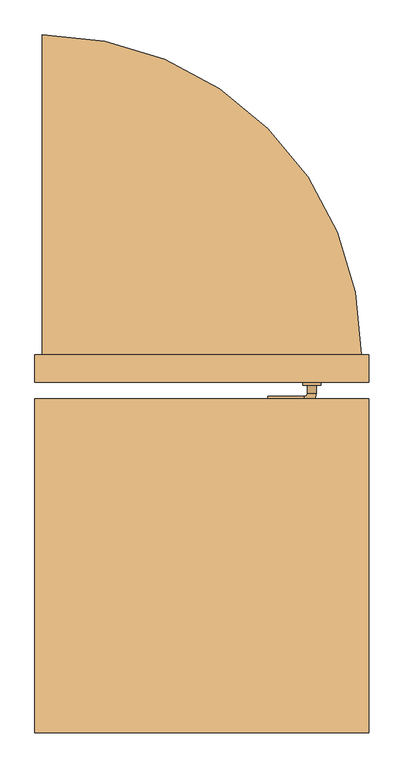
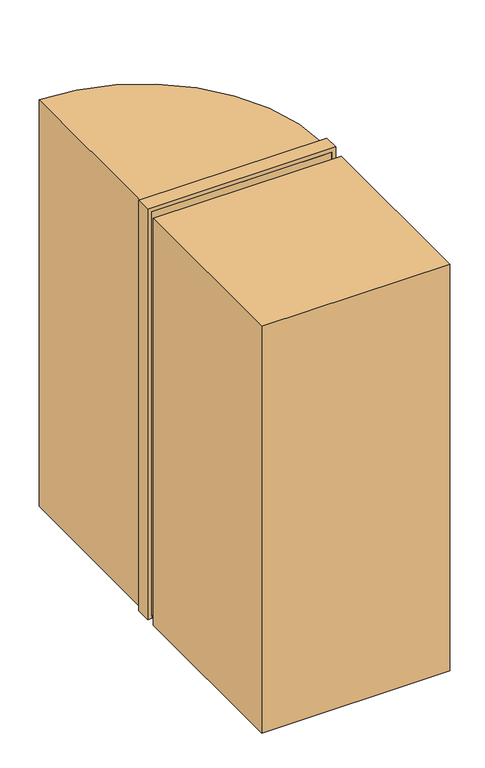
"""IFC4 building model written with IfcOpenShell, lengths in millimetres: door geometry, Дверь_Противопожарная_Металлическая_Однопольная_Глухая : 910 х 2100(h)_Пр_EI30."""

import ifcopenshell
import ifcopenshell.guid

model = None  # the IFC model being written
_history = None  # IfcOwnerHistory: only IFC2X3 demands one
_inside = {}  # id of a spatial element -> (the spatial element, [elements in it])
_under = {}  # id of a project, library or spatial element -> (it, [spatial elements below it])
_declared = {}  # id of a project -> (the project, [libraries it declares])
_typed = {}  # id of a type object -> (the type object, [elements of that type])
_made_of = {}  # id of a material, layer set ... -> (it, [elements and type objects made of it])


def new_model(schema):
    """Start an empty IFC model of exactly this schema.

    Asked for "IFC4X3", IfcOpenShell would pick the latest addendum, in which some entities
    have other attributes; the version numbers below select the first issue.
    IFC2X3 requires an IfcOwnerHistory on every rooted entity: one is made here for all.
    """
    global model, _history
    if schema == "IFC4X3":
        model = ifcopenshell.file(schema_version=(4, 3, 0, 0))
    else:
        model = ifcopenshell.file(schema=schema)
    _inside.clear()
    _under.clear()
    _declared.clear()
    _typed.clear()
    _made_of.clear()
    _history = None
    if model.schema == "IFC2X3":
        org = make("IfcOrganization", Name="unknown")
        user = make(
            "IfcPersonAndOrganization",
            ThePerson=make("IfcPerson", FamilyName="unknown"),
            TheOrganization=org,
        )
        app = make(
            "IfcApplication",
            ApplicationDeveloper=org,
            Version="unknown",
            ApplicationFullName="unknown",
            ApplicationIdentifier="unknown",
        )
        _history = make(
            "IfcOwnerHistory",
            OwningUser=user,
            OwningApplication=app,
            ChangeAction="ADDED",
            CreationDate=0,
        )
    return model


def make(cls, **values):
    """One entity of the class cls with the attributes given. An attribute that is None is left unset."""
    return model.create_entity(
        cls, **{name: value for name, value in values.items() if value is not None}
    )


def rooted(cls, **values):
    """An entity with a GlobalId (a new one), such as an element, a storey or a relation."""
    return make(cls, GlobalId=ifcopenshell.guid.new(), OwnerHistory=_history, **values)


def si_unit(unit_type, name, prefix=None):
    """IfcSIUnit, for example si_unit("LENGTHUNIT", "METRE", prefix="MILLI")."""
    return make("IfcSIUnit", UnitType=unit_type, Prefix=prefix, Name=name)


def assignment(units):
    """IfcUnitAssignment: the units of a project."""
    return None if units is None else make("IfcUnitAssignment", Units=units)


def point(xyz):
    """IfcCartesianPoint."""
    return None if xyz is None else make("IfcCartesianPoint", Coordinates=xyz)


def direction(xyz):
    """IfcDirection."""
    return None if xyz is None else make("IfcDirection", DirectionRatios=xyz)


def frame(location, z_axis=None, x_axis=None):
    """IfcAxis2Placement3D, a coordinate frame: its origin and axes. An axis left out is left unset."""
    return make(
        "IfcAxis2Placement3D",
        Location=point(location),
        Axis=direction(z_axis),
        RefDirection=direction(x_axis),
    )


def frame_2d(location, x_axis=None):
    """IfcAxis2Placement2D, a coordinate frame in the plane: its origin and x axis."""
    return make(
        "IfcAxis2Placement2D", Location=point(location), RefDirection=direction(x_axis)
    )


def origin():
    """The frame at (0, 0, 0) with its axes left unset."""
    return frame((0.0, 0.0, 0.0))


def origin_with_axes():
    """The frame at (0, 0, 0) with the z axis (0, 0, 1) and the x axis (1, 0, 0) written out."""
    return frame((0.0, 0.0, 0.0), z_axis=(0.0, 0.0, 1.0), x_axis=(1.0, 0.0, 0.0))


def place(relative_to, where):
    """IfcLocalPlacement: puts the frame where relative to a parent placement (None: the world)."""
    return make(
        "IfcLocalPlacement", PlacementRelTo=relative_to, RelativePlacement=where
    )


def context(
    kind, dimensions, precision=None, world=None, true_north=None, identifier=None
):
    """IfcGeometricRepresentationContext, for example the 3D "Model" context."""
    return make(
        "IfcGeometricRepresentationContext",
        ContextIdentifier=identifier,
        ContextType=kind,
        CoordinateSpaceDimension=dimensions,
        Precision=precision,
        WorldCoordinateSystem=world,
        TrueNorth=true_north,
    )


def project(units=None, contexts=None):
    """IfcProject with its units and contexts."""
    return rooted(
        "IfcProject",
        Name="project",
        RepresentationContexts=contexts,
        UnitsInContext=assignment(units),
    )


def spatial(cls, under=None, at=None, **own):
    """A site, building, storey or space (cls), placed at a placement, below another one or the project."""
    s = rooted(cls, ObjectPlacement=at, **own)
    if under is not None:
        _under.setdefault(under.id(), (under, []))[1].append(s)
    return s


def polyline(points):
    """IfcPolyline through the points."""
    return make("IfcPolyline", Points=[point(p) for p in points])


def circle_curve(where, radius):
    """IfcCircle in the frame where."""
    return make("IfcCircle", Position=where, Radius=radius)


def ellipse_curve(where, semi_axis1, semi_axis2):
    """IfcEllipse in the frame where."""
    return make(
        "IfcEllipse", Position=where, SemiAxis1=semi_axis1, SemiAxis2=semi_axis2
    )


def trimmed(basis, trim1, trim2, sense, master):
    """IfcTrimmedCurve: the piece of a basis curve between two trims."""
    return make(
        "IfcTrimmedCurve",
        BasisCurve=basis,
        Trim1=trim1,
        Trim2=trim2,
        SenseAgreement=sense,
        MasterRepresentation=master,
    )


def segment(curve, same_sense, transition):
    """IfcCompositeCurveSegment."""
    return make(
        "IfcCompositeCurveSegment",
        Transition=transition,
        SameSense=same_sense,
        ParentCurve=curve,
    )


def composite_curve(segments, self_intersect=None):
    """IfcCompositeCurve: segments joined end to end."""
    return make("IfcCompositeCurve", Segments=segments, SelfIntersect=self_intersect)


def outline(outer, holes=None, kind="AREA"):
    """IfcArbitraryClosedProfileDef: a profile drawn as a closed curve; with holes, ...WithVoids."""
    if holes is None:
        return make("IfcArbitraryClosedProfileDef", ProfileType=kind, OuterCurve=outer)
    return make(
        "IfcArbitraryProfileDefWithVoids",
        ProfileType=kind,
        OuterCurve=outer,
        InnerCurves=holes,
    )


def extrude(swept, where, along, depth):
    """IfcExtrudedAreaSolid: the profile swept, set in the frame where, extruded along a direction by depth."""
    return make(
        "IfcExtrudedAreaSolid",
        SweptArea=swept,
        Position=where,
        ExtrudedDirection=direction(along),
        Depth=depth,
    )


def shape(context_of_items, identifier, shape_type, items):
    """IfcShapeRepresentation: the items that make up one representation, for example the "Body"."""
    return make(
        "IfcShapeRepresentation",
        ContextOfItems=context_of_items,
        RepresentationIdentifier=identifier,
        RepresentationType=shape_type,
        Items=items,
    )


def source(mapping_origin, context_of_items, identifier, shape_type, items):
    """IfcRepresentationMap: a shape defined once, which mapped items show again and again."""
    return make(
        "IfcRepresentationMap",
        MappingOrigin=mapping_origin,
        MappedRepresentation=shape(context_of_items, identifier, shape_type, items),
    )


def transform(
    local_origin,
    x_axis=None,
    y_axis=None,
    z_axis=None,
    scale=None,
    scale2=None,
    scale3=None,
    uniform=True,
):
    """IfcCartesianTransformationOperator3D, or its non-uniform kind. x_axis, y_axis, z_axis: its Axis1, 2, 3."""
    if uniform:
        return make(
            "IfcCartesianTransformationOperator3D",
            Axis1=direction(x_axis),
            Axis2=direction(y_axis),
            LocalOrigin=point(local_origin),
            Scale=scale,
            Axis3=direction(z_axis),
        )
    return make(
        "IfcCartesianTransformationOperator3DnonUniform",
        Axis1=direction(x_axis),
        Axis2=direction(y_axis),
        LocalOrigin=point(local_origin),
        Scale=scale,
        Axis3=direction(z_axis),
        Scale2=scale2,
        Scale3=scale3,
    )


def mapped(mapping_source, mapping_target):
    """IfcMappedItem: shows the shape of a source again, moved by a transform."""
    return make(
        "IfcMappedItem", MappingSource=mapping_source, MappingTarget=mapping_target
    )


def made_of(thing, what):
    """Note that an element or type object is made of a material, layer set ...; save() writes the relation."""
    if what is not None:
        _made_of.setdefault(what.id(), (what, []))[1].append(thing)
    return thing


def element(
    cls,
    number,
    at=None,
    inside=None,
    cuts=None,
    type_object=None,
    material=None,
    context=None,
    identifier="Body",
    shape_type=None,
    held_by="IfcProductDefinitionShape",
    body=None,
    shapes=None,
    **own,
):
    """One element of the class cls, such as IfcWall. Its Tag is "e" and its number.

    at: its placement. inside: the storey or other place that contains it. cuts: it is an
    opening in that element (IfcRelVoidsElement). A single representation is given by context,
    identifier, shape_type and body (its items); several are given by shapes. held_by: the class
    of the entity that holds the representations. save() writes the other relations.
    """
    e = rooted(cls, Tag="e%d" % number, ObjectPlacement=at, **own)
    if body is not None:
        shapes = [shape(context, identifier, shape_type, body)]
    if shapes is not None:
        e.Representation = make(held_by, Representations=shapes)
    if inside is not None:
        _inside.setdefault(inside.id(), (inside, []))[1].append(e)
    if cuts is not None:
        rooted(
            "IfcRelVoidsElement", RelatingBuildingElement=cuts, RelatedOpeningElement=e
        )
    if type_object is not None:
        _typed.setdefault(type_object.id(), (type_object, []))[1].append(e)
    return made_of(e, material)


def aggregate(whole, parts):
    """IfcRelAggregates: a whole, such as a stair, and the parts it consists of."""
    return rooted("IfcRelAggregates", RelatingObject=whole, RelatedObjects=parts)


def save(model, path):
    """Write the relations noted so far, then the file.

    IfcRelAggregates (storeys below a building ...), IfcRelContainedInSpatialStructure (elements
    in a storey), IfcRelDefinesByType, IfcRelAssociatesMaterial and IfcRelDeclares: one each for
    every whole, place, type object, material and project.
    """
    for whole, parts in _under.values():
        aggregate(whole, parts)
    for where, things in _inside.values():
        rooted(
            "IfcRelContainedInSpatialStructure",
            RelatedElements=things,
            RelatingStructure=where,
        )
    for kind, things in _typed.values():
        rooted("IfcRelDefinesByType", RelatedObjects=things, RelatingType=kind)
    for what, things in _made_of.values():
        rooted("IfcRelAssociatesMaterial", RelatedObjects=things, RelatingMaterial=what)
    for by, libraries in _declared.values():
        rooted("IfcRelDeclares", RelatingContext=by, RelatedDefinitions=libraries)
    model.write(path)


def plane_surface(at):
    """IfcPlane: the flat surface through the origin of the frame at, square to its z axis."""
    return make("IfcPlane", Position=at)


def cylinder_surface(at, radius):
    """IfcCylindricalSurface: all points at the distance radius from the z axis of the frame at."""
    return make("IfcCylindricalSurface", Position=at, Radius=radius)


def revolved_surface(curve, axis_point, axis_direction):
    """IfcSurfaceOfRevolution: the curve turned about the line through axis_point along axis_direction."""
    return make(
        "IfcSurfaceOfRevolution",
        SweptCurve=make("IfcArbitraryOpenProfileDef", ProfileType="CURVE", Curve=curve),
        AxisPosition=make("IfcAxis1Placement", Location=point(axis_point), Axis=direction(axis_direction)),
    )


def advanced_brep(points, edges, surfaces, faces):
    """IfcAdvancedBrep: a solid bounded by faces that lie on surfaces and meet in shared edges.

    An edge is (start, end): straight between two places in points (the first is 0);
    or (start, end, curve); or (start, end, curve, False) where it runs against its curve.
    A face is (place in surfaces, loops), or (place, loops, False) where it looks against
    its surface's normal. A loop lists edges by number (the first is 1), with a minus sign
    where the edge is run from its end to its start. The first loop is the outer one.
    """
    corners = [point(p) for p in points]
    vertices = [make("IfcVertexPoint", VertexGeometry=c) for c in corners]
    made = []
    for start, end, *more in edges:
        made.append(
            make(
                "IfcEdgeCurve",
                EdgeStart=vertices[start],
                EdgeEnd=vertices[end],
                EdgeGeometry=more[0] if more else make("IfcPolyline", Points=[corners[start], corners[end]]),
                SameSense=more[1] if len(more) > 1 else True,
            )
        )
    hull = []
    for where, loops, *sense in faces:
        bounds = []
        for j, loop in enumerate(loops):
            ring = [make("IfcOrientedEdge", EdgeElement=made[abs(k) - 1], Orientation=k > 0) for k in loop]
            bounds.append(
                make(
                    "IfcFaceOuterBound" if j == 0 else "IfcFaceBound",
                    Bound=make("IfcEdgeLoop", EdgeList=ring),
                    Orientation=True,
                )
            )
        hull.append(make("IfcAdvancedFace", Bounds=bounds, FaceSurface=surfaces[where], SameSense=sense[0] if sense else True))
    return make("IfcAdvancedBrep", Outer=make("IfcClosedShell", CfsFaces=hull))


def door_dd1247db(model_context):
    return source(origin(), model_context, "Body", "SolidModel", [
        extrude(outline(composite_curve([segment(trimmed(circle_curve(frame_2d((-435.0, 60.0)), 870.0), [point((-435.0, 930.0))], [point((435.0, 60.0))], False, "CARTESIAN"), True, "CONTINUOUS"), segment(polyline([(435.0, 60.0), (-435.0, 60.0), (-435.0, 930.0)]), True, "CONTINUOUS")], self_intersect=False)), origin_with_axes(), (0.0, 0.0, 1.0), 2080.0),
        extrude(outline(polyline([(-455.0, -970.0), (-455.0, -60.0), (455.0, -60.0), (455.0, -970.0), (-455.0, -970.0)])), origin_with_axes(), (0.0, 0.0, 1.0), 2080.0),
        advanced_brep(
        [(180.0, 122.0, 1000.0), (180.0, 98.0, 1000.0), (280.0, 98.0, 1000.0), (280.0, 122.0, 1000.0), (288.0, 90.0, 1000.0), (312.0, 90.0, 1000.0), (312.0, -45.0, 1000.0), (312.0, -23.0, 1000.0), (288.0, -23.0, 1000.0), (288.0, -45.0, 1000.0), (288.0, 68.0, 1000.0), (312.0, 68.0, 1000.0), (280.0, -53.0, 1000.0), (280.0, -77.0, 1000.0), (180.0, -77.0, 1000.0), (180.0, -53.0, 1000.0), (325.0, 68.0, 1000.0), (275.0, 68.0, 1000.0), (325.0, -23.0, 1000.0), (275.0, -23.0, 1000.0)],
        [
            (0, 1, circle_curve(frame((180.0, 110.0, 1000.0), z_axis=(-1.0, 0.0, 0.0), x_axis=(0.0, -1.0, 0.0)), 12.0)),
            (1, 0, circle_curve(frame((180.0, 110.0, 1000.0), z_axis=(-1.0, 0.0, 0.0), x_axis=(0.0, -1.0, 0.0)), 12.0)),
            (1, 2),
            (2, 3, circle_curve(frame((280.0, 110.0, 1000.0), z_axis=(-1.0, 0.0, 0.0), x_axis=(0.0, -1.0, 0.0)), 12.0)),
            (3, 0),
            (3, 2, circle_curve(frame((280.0, 110.0, 1000.0), z_axis=(-1.0, 0.0, 0.0), x_axis=(0.0, -1.0, 0.0)), 12.0)),
            (2, 4, circle_curve(frame((280.0, 90.0, 1000.0), z_axis=(0.0, 0.0, -1.0), x_axis=(0.0, 1.0, 0.0)), 8.0)),
            (4, 5, circle_curve(frame((300.0, 90.0, 1000.0), z_axis=(0.0, 1.0, 0.0), x_axis=(-1.0, 0.0, 0.0)), 12.0)),
            (5, 3, circle_curve(frame((280.0, 90.0, 1000.0), z_axis=(0.0, 0.0, 1.0), x_axis=(0.0, 1.0, 0.0)), 32.0)),
            (5, 4, circle_curve(frame((300.0, 90.0, 1000.0), z_axis=(0.0, 1.0, 0.0), x_axis=(-1.0, 0.0, 0.0)), 12.0)),
            (6, 7),
            (7, 8, circle_curve(frame((300.0, -23.0, 1000.0), z_axis=(0.0, -1.0, 0.0), x_axis=(-1.0, 0.0, 0.0)), 12.0)),
            (8, 9),
            (9, 6, circle_curve(frame((300.0, -45.0, 1000.0), z_axis=(0.0, 1.0, 0.0), x_axis=(-1.0, 0.0, 0.0)), 12.0)),
            (4, 10),
            (10, 11, circle_curve(frame((300.0, 68.0, 1000.0), z_axis=(0.0, 1.0, 0.0), x_axis=(-1.0, 0.0, 0.0)), 12.0)),
            (11, 5),
            (11, 10, circle_curve(frame((300.0, 68.0, 1000.0), z_axis=(0.0, 1.0, 0.0), x_axis=(-1.0, 0.0, 0.0)), 12.0)),
            (8, 7, circle_curve(frame((300.0, -23.0, 1000.0), z_axis=(0.0, -1.0, 0.0), x_axis=(-1.0, 0.0, 0.0)), 12.0)),
            (6, 9, circle_curve(frame((300.0, -45.0, 1000.0), z_axis=(0.0, 1.0, 0.0), x_axis=(-1.0, 0.0, 0.0)), 12.0)),
            (9, 12, circle_curve(frame((280.0, -45.0, 1000.0), z_axis=(0.0, 0.0, -1.0), x_axis=(1.0, 0.0, 0.0)), 8.0)),
            (12, 13, circle_curve(frame((280.0, -65.0, 1000.0), z_axis=(1.0, 0.0, 0.0), x_axis=(0.0, 1.0, 0.0)), 12.0)),
            (13, 6, circle_curve(frame((280.0, -45.0, 1000.0), z_axis=(0.0, 0.0, 1.0), x_axis=(1.0, 0.0, 0.0)), 32.0)),
            (13, 12, circle_curve(frame((280.0, -65.0, 1000.0), z_axis=(1.0, 0.0, 0.0), x_axis=(0.0, 1.0, 0.0)), 12.0)),
            (14, 15, circle_curve(frame((180.0, -65.0, 1000.0), z_axis=(-1.0, 0.0, 0.0), x_axis=(0.0, 1.0, 0.0)), 12.0)),
            (15, 14, circle_curve(frame((180.0, -65.0, 1000.0), z_axis=(-1.0, 0.0, 0.0), x_axis=(0.0, 1.0, 0.0)), 12.0)),
            (12, 15),
            (14, 13),
            (16, 17, circle_curve(frame((300.0, 68.0, 1000.0), z_axis=(0.0, 1.0, 0.0), x_axis=(-1.0, 0.0, 0.0)), 25.0)),
            (17, 16, circle_curve(frame((300.0, 68.0, 1000.0), z_axis=(0.0, 1.0, 0.0), x_axis=(-1.0, 0.0, 0.0)), 25.0)),
            (18, 19, circle_curve(frame((300.0, -23.0, 1000.0), z_axis=(0.0, -1.0, 0.0), x_axis=(-1.0, 0.0, 0.0)), 25.0)),
            (19, 18, circle_curve(frame((300.0, -23.0, 1000.0), z_axis=(0.0, -1.0, 0.0), x_axis=(-1.0, 0.0, 0.0)), 25.0)),
            (16, 18),
            (19, 17),
        ],
        [
            plane_surface(frame((180.0, 110.0, 1000.0), z_axis=(-1.0, 0.0, 0.0), x_axis=(0.0, 0.0, 1.0))),
            cylinder_surface(frame((180.0, 110.0, 1000.0), z_axis=(-1.0, 0.0, 0.0), x_axis=(0.0, -1.0, 0.0)), 12.0),
            revolved_surface(trimmed(ellipse_curve(frame((280.0, 110.0, 1000.0), z_axis=(1.0, 0.0, 0.0), x_axis=(0.0, -1.0, 0.0)), 12.0, 12.0), [point((280.0, 122.0, 1000.0))], [point((280.0, 98.0, 1000.0))], True, "CARTESIAN"), (280.0, 90.0, 1000.0), (0.0, 0.0, 1.0)),
            revolved_surface(trimmed(ellipse_curve(frame((280.0, 110.0, 1000.0), z_axis=(1.0, 0.0, 0.0), x_axis=(0.0, -1.0, 0.0)), 12.0, 12.0), [point((280.0, 98.0, 1000.0))], [point((280.0, 122.0, 1000.0))], True, "CARTESIAN"), (280.0, 90.0, 1000.0), (0.0, 0.0, 1.0)),
            cylinder_surface(frame((300.0, 90.0, 1000.0), z_axis=(0.0, 1.0, 0.0), x_axis=(-1.0, 0.0, 0.0)), 12.0),
            revolved_surface(trimmed(ellipse_curve(frame((300.0, -45.0, 1000.0), z_axis=(0.0, -1.0, 0.0), x_axis=(-1.0, 0.0, 0.0)), 12.0, 12.0), [point((312.0, -45.0, 1000.0))], [point((288.0, -45.0, 1000.0))], True, "CARTESIAN"), (280.0, -45.0, 1000.0), (0.0, 0.0, 1.0)),
            revolved_surface(trimmed(ellipse_curve(frame((300.0, -45.0, 1000.0), z_axis=(0.0, -1.0, 0.0), x_axis=(-1.0, 0.0, 0.0)), 12.0, 12.0), [point((288.0, -45.0, 1000.0))], [point((312.0, -45.0, 1000.0))], True, "CARTESIAN"), (280.0, -45.0, 1000.0), (0.0, 0.0, 1.0)),
            plane_surface(frame((180.0, -65.0, 1000.0), z_axis=(-1.0, 0.0, 0.0), x_axis=(0.0, 0.0, 1.0))),
            cylinder_surface(frame((280.0, -65.0, 1000.0), z_axis=(1.0, 0.0, 0.0), x_axis=(0.0, 1.0, 0.0)), 12.0),
            plane_surface(frame((275.0, 68.0, 1000.0), z_axis=(0.0, 1.0, 0.0), x_axis=(0.0, 0.0, -1.0))),
            plane_surface(frame((275.0, -23.0, 1000.0), z_axis=(0.0, -1.0, 0.0), x_axis=(0.0, 0.0, 1.0))),
            cylinder_surface(frame((300.0, 68.0, 1000.0), z_axis=(0.0, -1.0, 0.0), x_axis=(-1.0, 0.0, 0.0)), 25.0),
        ],
        [
            (0, [[1, 2]]),
            (1, [[3, 4, 5, -2]]),
            (1, [[-5, 6, -3, -1]]),
            (2, [[7, 8, 9, -4]]),
            (3, [[-9, 10, -7, -6]]),
            (4, [[11, 12, 13, 14]]),
            (4, [[15, 16, 17, -8]]),
            (4, [[-17, 18, -15, -10]]),
            (4, [[-13, 19, -11, 20]]),
            (5, [[21, 22, 23, -14]]),
            (6, [[-23, 24, -21, -20]]),
            (7, [[25, 26]]),
            (8, [[27, -25, 28, -22]]),
            (8, [[-28, -26, -27, -24]]),
            (9, [[29, 30], [-18, -16]]),
            (10, [[31, 32], [-19, -12]]),
            (11, [[33, -32, 34, -29]]),
            (11, [[-34, -31, -33, -30]]),
        ],
    ),
        extrude(outline(composite_curve([segment(trimmed(circle_curve(frame_2d((900.0, 300.0)), 25.0), [point((900.0, 325.0))], [point((900.0, 275.0))], False, "CARTESIAN"), True, "CONTINUOUS"), segment(trimmed(circle_curve(frame_2d((900.0, 300.0)), 25.0), [point((900.0, 275.0))], [point((900.0, 325.0))], False, "CARTESIAN"), True, "CONTINUOUS")], self_intersect=False)), frame((0.0, -23.0, 0.0), z_axis=(0.0, 1.0, 0.0), x_axis=(0.0, 0.0, 1.0)), (0.0, 0.0, 1.0), 91.0),
        extrude(outline(polyline([(15.0, -435.0), (15.0, -360.0), (2005.0, -360.0), (2005.0, 360.0), (15.0, 360.0), (15.0, 435.0), (2080.0, 435.0), (2080.0, -435.0), (15.0, -435.0)])), frame((0.0, -15.0, 0.0), z_axis=(0.0, 1.0, 0.0), x_axis=(0.0, 0.0, 1.0)), (0.0, 0.0, 1.0), 75.0),
        extrude(outline(polyline([(0.0, 455.0), (2100.0, 455.0), (2100.0, -455.0), (0.0, -455.0), (0.0, -435.0), (2080.0, -435.0), (2080.0, 435.0), (0.0, 435.0), (0.0, 455.0)])), frame((0.0, -15.0, 0.0), z_axis=(0.0, 1.0, 0.0), x_axis=(0.0, 0.0, 1.0)), (0.0, 0.0, 1.0), 75.0),
        extrude(outline(polyline([(435.0, 60.0), (435.0, -15.0), (-435.0, -15.0), (-435.0, 60.0), (435.0, 60.0)])), origin_with_axes(), (0.0, 0.0, 1.0), 15.0),
        extrude(outline(polyline([(360.0, 60.0), (360.0, -15.0), (-360.0, -15.0), (-360.0, 60.0), (360.0, 60.0)])), frame((0.0, 0.0, 15.0), z_axis=(0.0, 0.0, 1.0), x_axis=(1.0, 0.0, 0.0)), (0.0, 0.0, 1.0), 1990.0),
    ])


if __name__ == "__main__":
    model = new_model("IFC4")
    model_context = context("Model", 3, world=origin())
    ifc_project = project(units=[si_unit("LENGTHUNIT", "METRE", prefix="MILLI")], contexts=[model_context])
    site = spatial("IfcSite", under=ifc_project)
    building = spatial("IfcBuilding", under=site)
    placement = place(None, origin())
    door_shape = door_dd1247db(model_context)
    element("IfcDoor", 1, ObjectType="Дверь_Противопожарная_Металлическая_Однопольная_Глухая : 910 х 2100(h)_Пр_EI30", at=placement, inside=building, context=model_context, shape_type="MappedRepresentation", body=[
        mapped(door_shape, transform((0.0, 0.0, 0.0), x_axis=(1.0, 0.0, 0.0), y_axis=(0.0, 1.0, 0.0), z_axis=(0.0, 0.0, 1.0))),
    ])
    save(model, "model.ifc")
